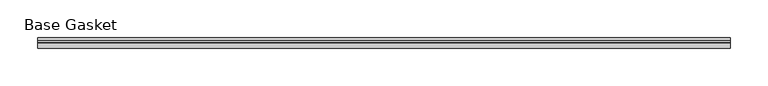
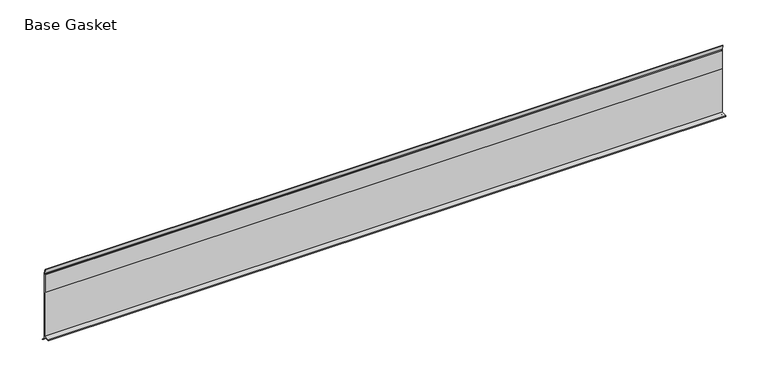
"""IFC4 building model written with IfcOpenShell, lengths in millimetres: furniture geometry, Gasket-Teknion-FHGB-AI_Healthcare-R2021 : Base Gasket."""

from ifc_helpers import new_model, si_unit, frame, origin, place, context, project, spatial, polyline, outline, extrude, source, transform, mapped, element, save


def base_gasket_9bbec967(model_context):
    return source(origin(), model_context, "Body", "SweptSolid", [
        extrude(outline(polyline([(3.7283812, 98.4568417), (3.7283812, 4.3498477), (7.4222115, 0.6560174), (7.8482342, 0.0), (6.8281054, 0.3520979), (2.2043812, 4.3498477), (2.1334222, 6.3818476), (-6.2405171, 6.3818476), (-6.2405171, 7.9398773), (2.2043812, 7.9398773), (2.2043812, 71.4693447), (1.4106313, 71.4693447), (1.4106313, 96.8693477), (2.2043812, 96.8693477), (2.2043812, 98.4568417), (0.6755308, 104.4162708), (0.6755308, 105.2002997), (1.1891543, 104.587663), (3.7283812, 98.4568417)])), frame((-1527.8982117, 0.0, 0.0), z_axis=(1.0, 0.0, 0.0), x_axis=(0.0, 1.0, 0.0)), (0.0, 0.0, 1.0), 922.2573348),
    ])


if __name__ == "__main__":
    model = new_model("IFC4")
    model_context = context("Model", 3, world=origin())
    ifc_project = project(units=[si_unit("LENGTHUNIT", "METRE", prefix="MILLI")], contexts=[model_context])
    site = spatial("IfcSite", under=ifc_project)
    building = spatial("IfcBuilding", under=site)
    placement = place(None, origin())
    base_gasket_shape = base_gasket_9bbec967(model_context)
    element("IfcFurniture", 1, ObjectType="Gasket-Teknion-FHGB-AI_Healthcare-R2021 : Base Gasket", at=placement, inside=building, context=model_context, shape_type="MappedRepresentation", body=[
        mapped(base_gasket_shape, transform((0.0, 0.0, 0.0), x_axis=(1.0, 0.0, 0.0), y_axis=(0.0, 1.0, 0.0), z_axis=(0.0, 0.0, 1.0))),
    ])
    save(model, "model.ifc")
